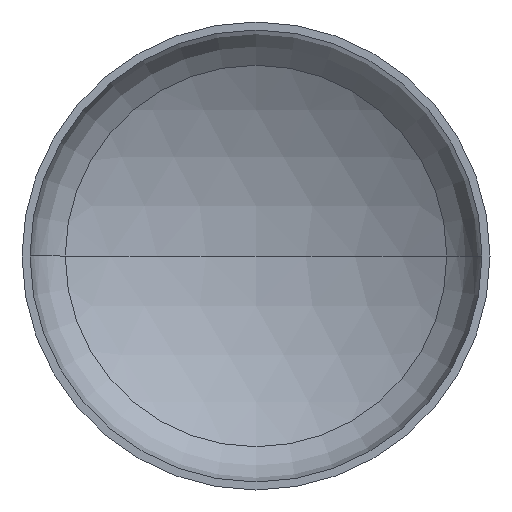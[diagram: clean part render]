
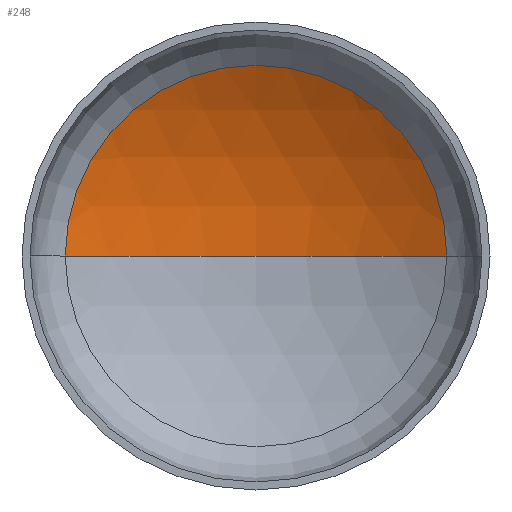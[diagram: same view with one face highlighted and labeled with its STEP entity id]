
A CAD part, front view. The second image highlights one B-rep face of the part: STEP entity #248.
In plain terms, the highlighted spherical face has radius 1120 mm.
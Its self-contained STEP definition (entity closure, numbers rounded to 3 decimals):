
#1 = AXIS2_PLACEMENT_3D ( 'NONE', #365, #212, #385 ) ;
#5 = AXIS2_PLACEMENT_3D ( 'NONE', #153, #210, #336 ) ;
#12 = AXIS2_PLACEMENT_3D ( 'NONE', #185, #170, #267 ) ;
#13 = DIRECTION ( 'NONE',  ( 0., 0., -1. ) ) ;
#24 = EDGE_LOOP ( 'NONE', ( #121, #100, #54 ) ) ;
#43 = VERTEX_POINT ( 'NONE', #255 ) ;
#45 = AXIS2_PLACEMENT_3D ( 'NONE', #390, #13, #108 ) ;
#54 = ORIENTED_EDGE ( 'NONE', *, *, #334, .T. ) ;
#88 = FACE_OUTER_BOUND ( 'NONE', #24, .T. ) ;
#100 = ORIENTED_EDGE ( 'NONE', *, *, #373, .T. ) ;
#102 = VERTEX_POINT ( 'NONE', #300 ) ;
#108 = DIRECTION ( 'NONE',  ( -1., 0., 0. ) ) ;
#116 = VERTEX_POINT ( 'NONE', #290 ) ;
#121 = ORIENTED_EDGE ( 'NONE', *, *, #357, .F. ) ;
#153 = CARTESIAN_POINT ( 'NONE',  ( 0., -703.784, 0. ) ) ;
#170 = DIRECTION ( 'NONE',  ( 0., -1., 0. ) ) ;
#185 = CARTESIAN_POINT ( 'NONE',  ( 0., 260.015, 0. ) ) ;
#210 = DIRECTION ( 'NONE',  ( 0., 0., 1. ) ) ;
#212 = DIRECTION ( 'NONE',  ( 0., 0., -1. ) ) ;
#239 = SPHERICAL_SURFACE ( 'NONE', #45, 1120. ) ;
#248 = ADVANCED_FACE ( 'NONE', ( #88 ), #239, .F. ) ;
#255 = CARTESIAN_POINT ( 'NONE',  ( -570.519, 260.015, 0. ) ) ;
#262 = CIRCLE ( 'NONE', #1, 1120. ) ;
#267 = DIRECTION ( 'NONE',  ( 1., 0., 0. ) ) ;
#290 = CARTESIAN_POINT ( 'NONE',  ( 0., 416.216, 0. ) ) ;
#300 = CARTESIAN_POINT ( 'NONE',  ( 570.519, 260.015, 0. ) ) ;
#334 = EDGE_CURVE ( 'NONE', #102, #43, #347, .T. ) ;
#336 = DIRECTION ( 'NONE',  ( 1., 0., 0. ) ) ;
#342 = CIRCLE ( 'NONE', #5, 1120. ) ;
#347 = CIRCLE ( 'NONE', #12, 570.519 ) ;
#357 = EDGE_CURVE ( 'NONE', #116, #43, #342, .T. ) ;
#365 = CARTESIAN_POINT ( 'NONE',  ( 0., -703.784, 0. ) ) ;
#373 = EDGE_CURVE ( 'NONE', #116, #102, #262, .T. ) ;
#385 = DIRECTION ( 'NONE',  ( -1., 0., 0. ) ) ;
#390 = CARTESIAN_POINT ( 'NONE',  ( 0., -703.784, 0. ) ) ;
